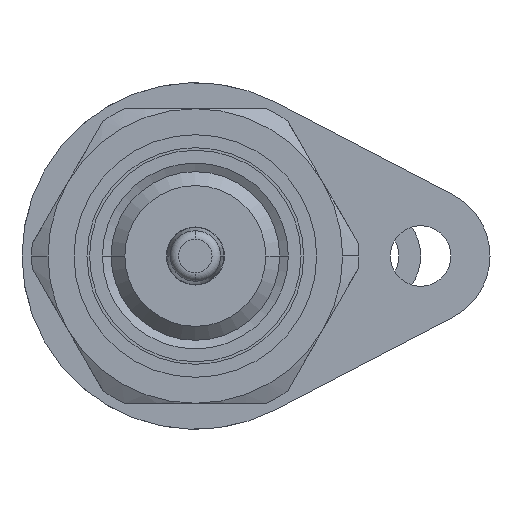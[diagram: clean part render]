
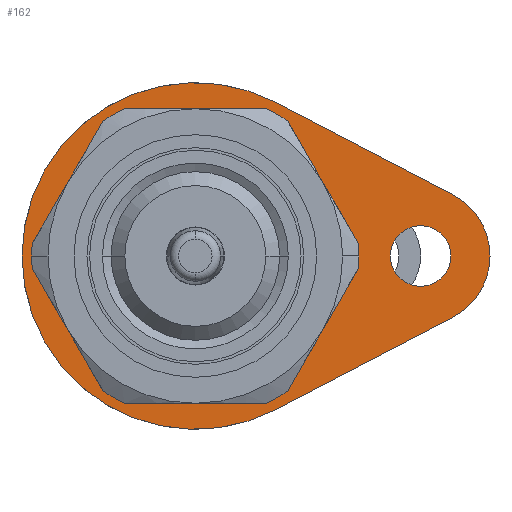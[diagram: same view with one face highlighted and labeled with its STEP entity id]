
A CAD part, front view. The second image highlights one B-rep face of the part: STEP entity #162.
In plain terms, the highlighted planar face has unit normal (0, -1, 0).
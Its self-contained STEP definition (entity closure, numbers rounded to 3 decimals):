
#162=ADVANCED_FACE('',(#553,#554,#555),#556,.F.);
#553=FACE_BOUND('',#1201,.T.);
#554=FACE_BOUND('',#1202,.T.);
#555=FACE_OUTER_BOUND('',#1203,.T.);
#556=PLANE('',#1204);
#1201=EDGE_LOOP('',(#2258,#2259));
#1202=EDGE_LOOP('',(#2260,#2261));
#1203=EDGE_LOOP('',(#2262,#2263,#2264,#2265,#2266,#2267));
#1204=AXIS2_PLACEMENT_3D('',#2268,#2269,#2270);
#2258=ORIENTED_EDGE('',*,*,#4285,.T.);
#2259=ORIENTED_EDGE('',*,*,#4284,.T.);
#2260=ORIENTED_EDGE('',*,*,#4287,.T.);
#2261=ORIENTED_EDGE('',*,*,#4280,.T.);
#2262=ORIENTED_EDGE('',*,*,#4272,.F.);
#2263=ORIENTED_EDGE('',*,*,#4290,.F.);
#2264=ORIENTED_EDGE('',*,*,#4274,.F.);
#2265=ORIENTED_EDGE('',*,*,#4293,.F.);
#2266=ORIENTED_EDGE('',*,*,#4296,.T.);
#2267=ORIENTED_EDGE('',*,*,#4297,.F.);
#2268=CARTESIAN_POINT('',(3.067,0.,0.));
#2269=DIRECTION('',(-0.0,1.0,0.));
#2270=DIRECTION('',(1.0,0.0,0.0));
#4272=EDGE_CURVE('',#5122,#5118,#5124,.T.);
#4274=EDGE_CURVE('',#5125,#5128,#5129,.T.);
#4280=EDGE_CURVE('',#5134,#5138,#5140,.T.);
#4284=EDGE_CURVE('',#5142,#5146,#5148,.T.);
#4285=EDGE_CURVE('',#5146,#5142,#5149,.T.);
#4287=EDGE_CURVE('',#5138,#5134,#5151,.T.);
#4290=EDGE_CURVE('',#5128,#5122,#5154,.T.);
#4293=EDGE_CURVE('',#5157,#5125,#5159,.T.);
#4296=EDGE_CURVE('',#5157,#5162,#5164,.T.);
#4297=EDGE_CURVE('',#5118,#5162,#5165,.T.);
#5118=VERTEX_POINT('',#6677);
#5122=VERTEX_POINT('',#6682);
#5124=CIRCLE('',#6685,10.0);
#5125=VERTEX_POINT('',#6686);
#5128=VERTEX_POINT('',#6690);
#5129=CIRCLE('',#6691,4.0);
#5134=VERTEX_POINT('',#6697);
#5138=VERTEX_POINT('',#6702);
#5140=CIRCLE('',#6705,7.75);
#5142=VERTEX_POINT('',#6707);
#5146=VERTEX_POINT('',#6712);
#5148=CIRCLE('',#6715,1.75);
#5149=CIRCLE('',#6716,1.75);
#5151=CIRCLE('',#6718,7.75);
#5154=LINE('',#6722,#6723);
#5157=VERTEX_POINT('',#6726);
#5159=CIRCLE('',#6729,4.0);
#5162=VERTEX_POINT('',#6733);
#5164=LINE('',#6736,#6737);
#5165=CIRCLE('',#6738,10.0);
#6677=CARTESIAN_POINT('',(-10.0,0.,0.));
#6682=CARTESIAN_POINT('',(4.615,0.,-8.871));
#6685=AXIS2_PLACEMENT_3D('',#9381,#9382,#9383);
#6686=CARTESIAN_POINT('',(17.0,0.,0.));
#6690=CARTESIAN_POINT('',(14.846,0.,-3.548));
#6691=AXIS2_PLACEMENT_3D('',#9385,#9386,#9387);
#6697=CARTESIAN_POINT('',(7.75,0.,0.));
#6702=CARTESIAN_POINT('',(-7.75,0.,0.));
#6705=AXIS2_PLACEMENT_3D('',#9397,#9398,#9399);
#6707=CARTESIAN_POINT('',(14.75,0.,0.));
#6712=CARTESIAN_POINT('',(11.25,0.,0.));
#6715=AXIS2_PLACEMENT_3D('',#9405,#9406,#9407);
#6716=AXIS2_PLACEMENT_3D('',#9408,#9409,#9410);
#6718=AXIS2_PLACEMENT_3D('',#9414,#9415,#9416);
#6722=CARTESIAN_POINT('',(14.846,0.,-3.548));
#6723=VECTOR('',#9421,1.0);
#6726=CARTESIAN_POINT('',(14.846,0.,3.548));
#6729=AXIS2_PLACEMENT_3D('',#9426,#9427,#9428);
#6733=CARTESIAN_POINT('',(4.615,0.,8.871));
#6736=CARTESIAN_POINT('',(14.846,0.,3.548));
#6737=VECTOR('',#9431,1.0);
#6738=AXIS2_PLACEMENT_3D('',#9432,#9433,#9434);
#9381=CARTESIAN_POINT('',(0.0,0.0,0.0));
#9382=DIRECTION('',(-0.0,1.0,0.));
#9383=DIRECTION('',(1.0,0.0,0.0));
#9385=CARTESIAN_POINT('',(13.0,0.0,0.0));
#9386=DIRECTION('',(-0.0,1.0,0.));
#9387=DIRECTION('',(1.0,0.0,0.0));
#9397=CARTESIAN_POINT('',(0.0,0.,0.0));
#9398=DIRECTION('',(-0.0,1.0,0.));
#9399=DIRECTION('',(1.0,0.0,0.0));
#9405=CARTESIAN_POINT('',(13.0,0.,0.0));
#9406=DIRECTION('',(-0.0,1.0,0.));
#9407=DIRECTION('',(1.0,0.0,0.0));
#9408=CARTESIAN_POINT('',(13.0,0.,0.0));
#9409=DIRECTION('',(-0.0,1.0,0.));
#9410=DIRECTION('',(1.0,0.0,0.0));
#9414=CARTESIAN_POINT('',(0.0,0.,0.0));
#9415=DIRECTION('',(-0.0,1.0,0.));
#9416=DIRECTION('',(1.0,0.0,0.0));
#9421=DIRECTION('',(-0.887,0.,-0.462));
#9426=CARTESIAN_POINT('',(13.0,0.0,0.0));
#9427=DIRECTION('',(-0.0,1.0,0.));
#9428=DIRECTION('',(1.0,0.0,0.0));
#9431=DIRECTION('',(-0.887,0.,0.462));
#9432=CARTESIAN_POINT('',(0.0,0.0,0.0));
#9433=DIRECTION('',(-0.0,1.0,0.));
#9434=DIRECTION('',(1.0,0.0,0.0));
